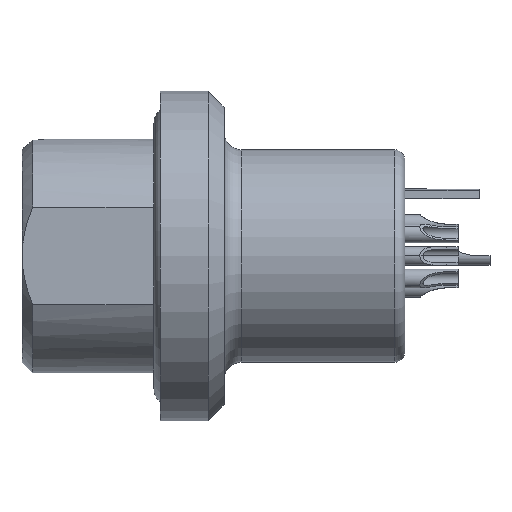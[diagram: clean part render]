
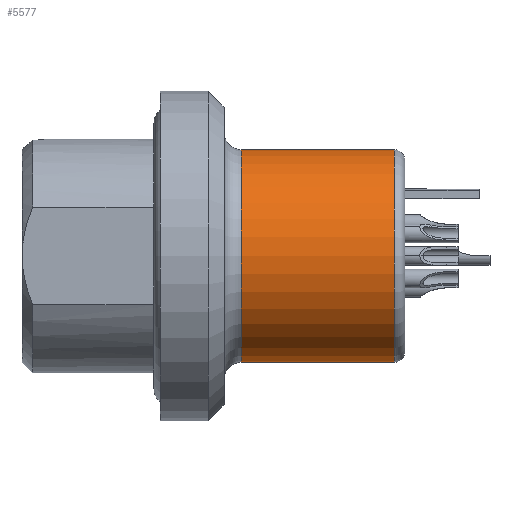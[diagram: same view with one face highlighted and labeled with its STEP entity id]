
A CAD part, top view. The second image highlights one B-rep face of the part: STEP entity #5577.
In plain terms, the highlighted cylindrical face has radius 5 mm (diameter 10 mm), a partial arc.
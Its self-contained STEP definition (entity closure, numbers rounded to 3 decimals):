
#1079=CARTESIAN_POINT('',(5.5,0.,0.));
#1080=DIRECTION('',(-1.,0.,0.));
#1081=DIRECTION('',(0.,-1.,0.));
#1082=AXIS2_PLACEMENT_3D('',#1079,#1080,#1081);
#1099=DIRECTION('',(-1.,0.,0.));
#1100=VECTOR('',#1099,7.2);
#1101=CARTESIAN_POINT('',(5.5,5.,0.));
#1102=LINE('',#1101,#1100);
#1103=DIRECTION('',(-1.,0.,0.));
#1104=VECTOR('',#1103,7.2);
#1105=CARTESIAN_POINT('',(5.5,-5.,0.));
#1106=LINE('',#1105,#1104);
#1107=CARTESIAN_POINT('',(-1.7,0.,0.));
#1108=DIRECTION('',(1.,0.,0.));
#1109=DIRECTION('',(0.,1.,0.));
#1110=AXIS2_PLACEMENT_3D('',#1107,#1108,#1109);
#3930=CARTESIAN_POINT('',(-1.7,5.,0.));
#3931=CARTESIAN_POINT('',(-1.7,-5.,0.));
#3932=VERTEX_POINT('',#3930);
#3933=VERTEX_POINT('',#3931);
#3934=CARTESIAN_POINT('',(5.5,-5.,0.));
#3935=CARTESIAN_POINT('',(5.5,5.,0.));
#3936=VERTEX_POINT('',#3934);
#3937=VERTEX_POINT('',#3935);
#5565=CARTESIAN_POINT('',(6.9,0.,0.));
#5566=DIRECTION('',(-1.,0.,0.));
#5567=DIRECTION('',(0.,-1.,0.));
#5568=AXIS2_PLACEMENT_3D('',#5565,#5566,#5567);
#5569=CYLINDRICAL_SURFACE('',#5568,5.);
#5570=ORIENTED_EDGE('',*,*,#5509,.F.);
#5571=ORIENTED_EDGE('',*,*,#5553,.T.);
#5573=ORIENTED_EDGE('',*,*,#5572,.F.);
#5574=ORIENTED_EDGE('',*,*,#5549,.F.);
#5575=EDGE_LOOP('',(#5570,#5571,#5573,#5574));
#5576=FACE_OUTER_BOUND('',#5575,.F.);
#1083=CIRCLE('',#1082,5.);
#1111=CIRCLE('',#1110,5.);
#5509=EDGE_CURVE('',#3936,#3937,#1083,.T.);
#5549=EDGE_CURVE('',#3937,#3932,#1102,.T.);
#5553=EDGE_CURVE('',#3936,#3933,#1106,.T.);
#5572=EDGE_CURVE('',#3932,#3933,#1111,.T.);
#5577=ADVANCED_FACE('',(#5576),#5569,.T.);
